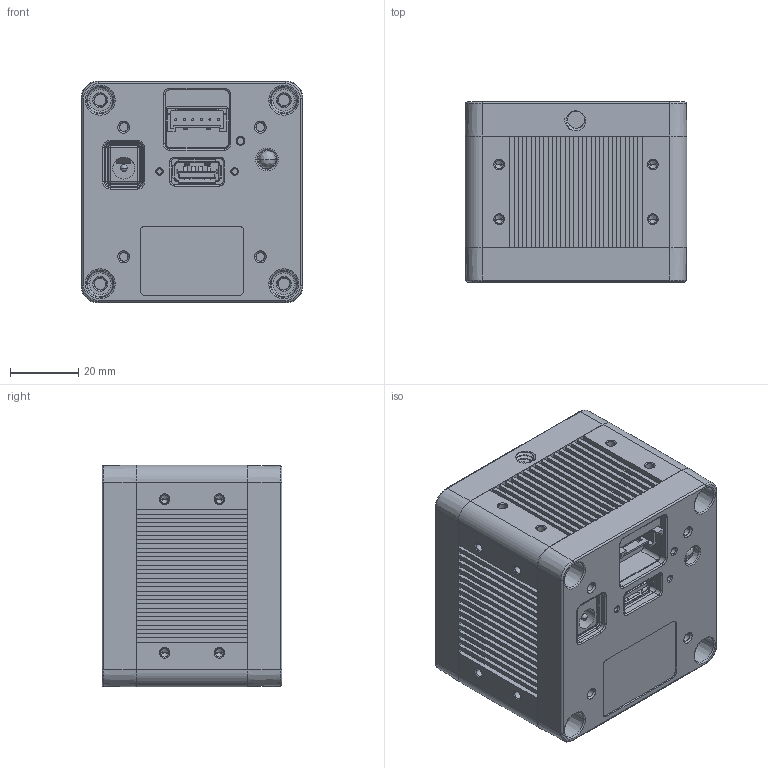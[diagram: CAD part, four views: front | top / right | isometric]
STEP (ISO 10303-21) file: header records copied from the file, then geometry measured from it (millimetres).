
FILE_DESCRIPTION((''),'2;1');
FILE_NAME('DCAM550_43D_ASM','2022-06-17T11:24:47',('Lincoln'),(''),'CREO PARAMETRIC BY PTC INC, 2018260','CREO PARAMETRIC BY PTC INC, 2018260','');
FILE_SCHEMA(('CONFIG_CONTROL_DESIGN','GEOMETRIC_VALIDATION_PROPERTIES_MIM'));
Products named in the file (4): 43D_TOP_COVER_550; 43D_550P_MIDDLE_COVER; 43D_550U; DCAM550_43D_ASM
Assembly tree (3 placements, depth 2):
  DCAM550_43D_ASM
    43D_TOP_COVER_550
    43D_550P_MIDDLE_COVER
    43D_550U
Bounding box: 65 x 52.7 x 65 mm (x, y, z)
Volume: 209252.2 mm3; surface area: 51692.5 mm2
Topology: 5 solids, 10 shells, 1596 faces, 4317 edges, 2767 vertices
Faces by surface type: plane 880, cylinder 252, bspline 250, cone 158, torus 46, sphere 6, extrusion 4
Entity records: 68544 total; most frequent: CARTESIAN_POINT 18694, ORIENTED_EDGE 8526, DIRECTION 7830, EDGE_CURVE 4263, PRESENTATION_STYLE_ASSIGNMENT 3303, STYLED_ITEM 3303, CURVE_STYLE 3299, VECTOR 2966
